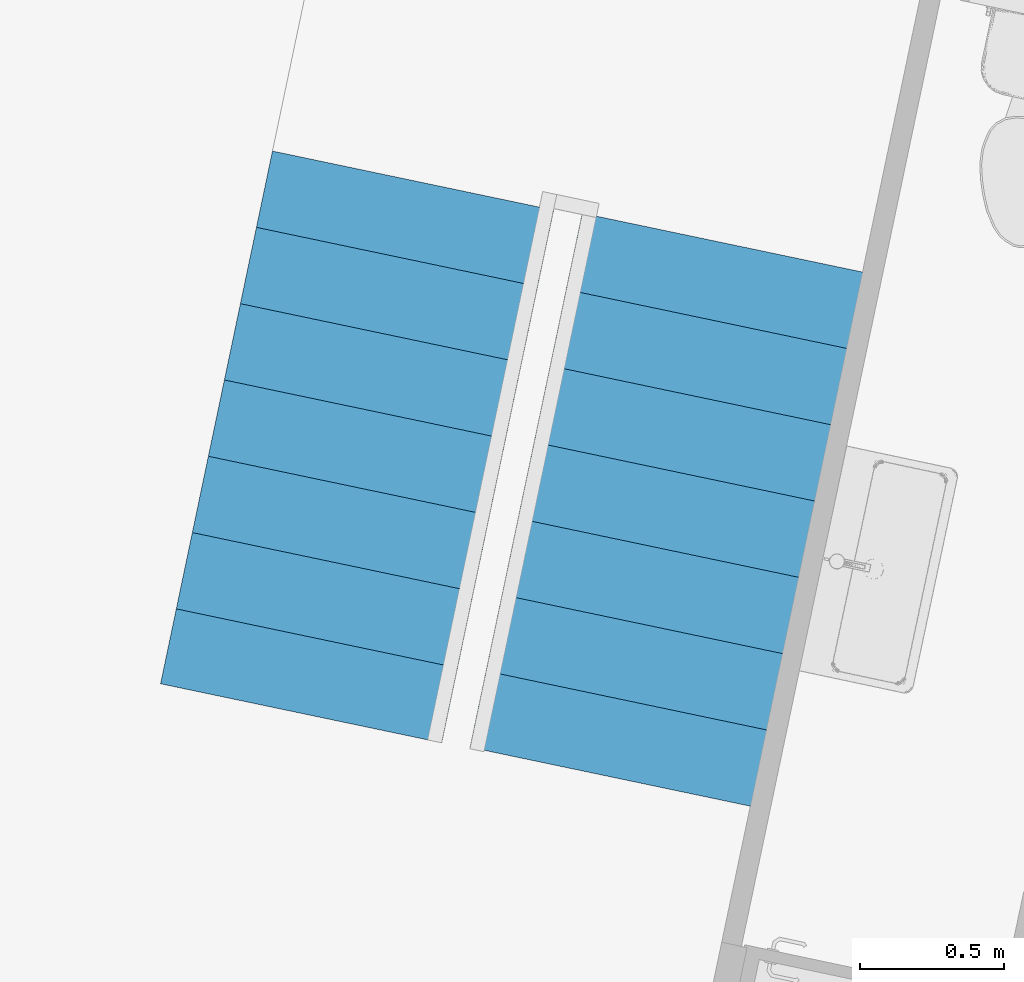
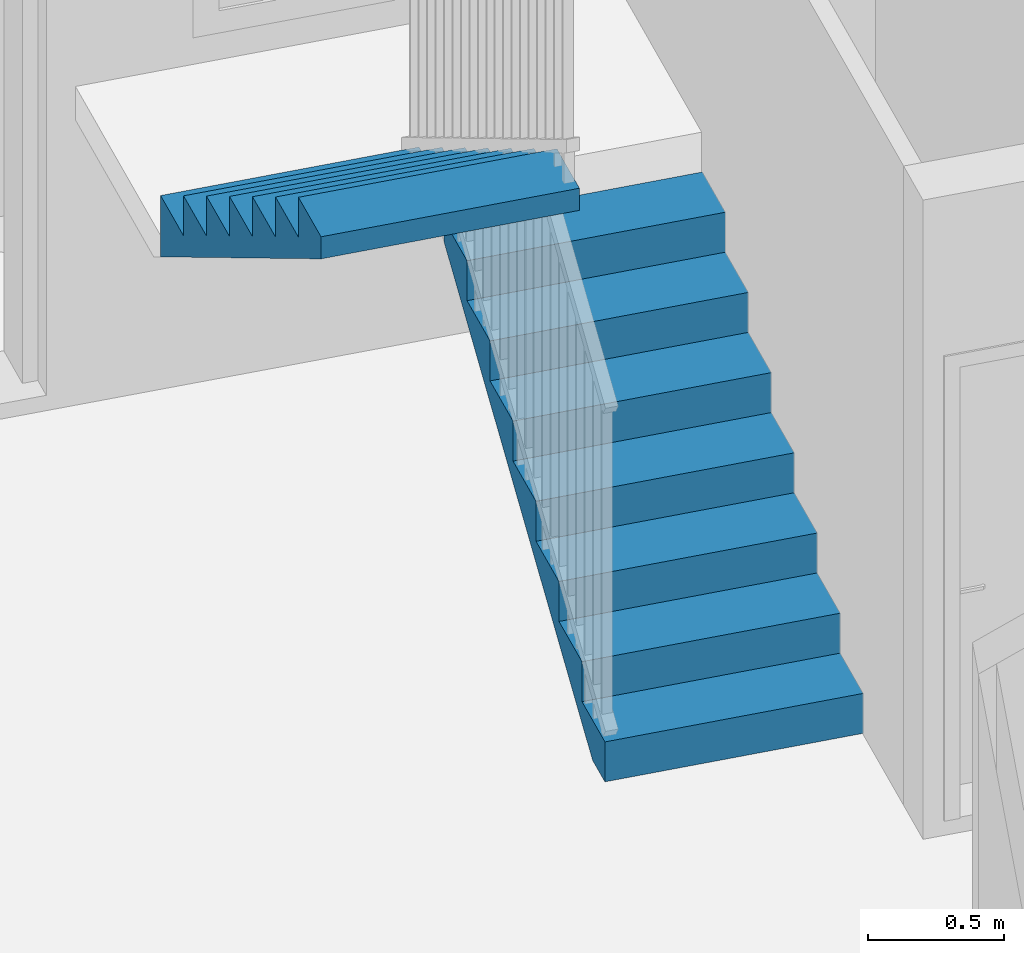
# One storey, part 14 of 20: 2 stair flights, 1 element without a shape of its own.
"""IFC2X3 building model written with IfcOpenShell, lengths in metres."""

from ifc_helpers import new_model, entity, si_unit, converted_unit, derived_unit, direction, frame, origin, place, context, subcontext, project, spatial, faceted_brep, element, aggregate, save


model = new_model("IFC2X3")

# Units and contexts
model_context = context("Model", 3, precision=1e-05, world=origin(), true_north=direction((6.12303176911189e-17, 1.0)))
body_context = subcontext(model_context, "Body", "Model", "MODEL_VIEW")
ifc_project = project(units=[si_unit("LENGTHUNIT", "METRE"), si_unit("AREAUNIT", "SQUARE_METRE"), si_unit("VOLUMEUNIT", "CUBIC_METRE"), converted_unit("PLANEANGLEUNIT", "DEGREE", entity("IfcRatioMeasure", 0.0174532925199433), si_unit("PLANEANGLEUNIT", "RADIAN"), dimensions=[0, 0, 0, 0, 0, 0, 0]), si_unit("MASSUNIT", "GRAM", prefix="KILO"), derived_unit("MASSDENSITYUNIT", [(si_unit("MASSUNIT", "GRAM", prefix="KILO"), 1), (si_unit("LENGTHUNIT", "METRE"), -3)]), si_unit("TIMEUNIT", "SECOND"), si_unit("FREQUENCYUNIT", "HERTZ"), si_unit("THERMODYNAMICTEMPERATUREUNIT", "DEGREE_CELSIUS"), derived_unit("THERMALTRANSMITTANCEUNIT", [(si_unit("MASSUNIT", "GRAM", prefix="KILO"), 1), (si_unit("THERMODYNAMICTEMPERATUREUNIT", "KELVIN"), -1), (si_unit("TIMEUNIT", "SECOND"), -3)]), derived_unit("VOLUMETRICFLOWRATEUNIT", [(si_unit("LENGTHUNIT", "METRE"), 3), (si_unit("TIMEUNIT", "SECOND"), -1)]), si_unit("ELECTRICCURRENTUNIT", "AMPERE"), si_unit("ELECTRICVOLTAGEUNIT", "VOLT"), si_unit("POWERUNIT", "WATT"), si_unit("FORCEUNIT", "NEWTON", prefix="KILO"), si_unit("ILLUMINANCEUNIT", "LUX"), si_unit("LUMINOUSFLUXUNIT", "LUMEN"), si_unit("LUMINOUSINTENSITYUNIT", "CANDELA"), derived_unit("USERDEFINED", [(si_unit("MASSUNIT", "GRAM", prefix="KILO"), -1), (si_unit("LENGTHUNIT", "METRE"), -2), (si_unit("TIMEUNIT", "SECOND"), 3), (si_unit("LUMINOUSFLUXUNIT", "LUMEN"), 1)]), derived_unit("LINEARVELOCITYUNIT", [(si_unit("LENGTHUNIT", "METRE"), 1), (si_unit("TIMEUNIT", "SECOND"), -1)]), si_unit("PRESSUREUNIT", "PASCAL"), derived_unit("USERDEFINED", [(si_unit("LENGTHUNIT", "METRE"), -2), (si_unit("MASSUNIT", "GRAM", prefix="KILO"), 1), (si_unit("TIMEUNIT", "SECOND"), -2)])], contexts=[model_context])

# Site, building, storey
site_placement = place(None, origin())
site = spatial("IfcSite", under=ifc_project, at=site_placement, Name="Default", CompositionType="ELEMENT")
building_placement = place(site_placement, origin())
building = spatial("IfcBuilding", under=site, at=building_placement, CompositionType="ELEMENT")
storey_placement = place(building_placement, frame((0.0, 0.0, -0.0686871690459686)))
storey = spatial("IfcBuildingStorey", under=building, at=storey_placement, Name="RDC", CompositionType="ELEMENT", Elevation=-0.0686871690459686)

# Stair, stair flights
stair_placement = place(storey_placement, origin())
stair = element("IfcStair", 1, at=stair_placement, inside=storey, Name="Escalier coulé sur place:Escalier", ObjectType="Escalier coulé sur place:Monobloc", ShapeType="NOTDEFINED")
stair_flight_1_placement = place(stair_placement, frame((-13.2135052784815, 82.3871692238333, 0.0)))
stair_flight_1 = element("IfcStairFlight", 2, at=stair_flight_1_placement, Name="Escalier coulé sur place:Escalier:1893858 Run 1", ObjectType="Volée monobloc:Nez de marche 5 mm", NumberOfRiser=8, NumberOfTreads=7, RiserHeight=0.588231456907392, TreadLength=0.890466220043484, context=body_context, shape_type="Brep", body=[
    faceted_brep([(0.0557908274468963, 0.471174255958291, 0.179292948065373), (0.0, 0.205556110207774, 0.179292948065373), (0.978645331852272, 0.0, 0.179292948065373), (1.03443615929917, 0.265618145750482, 0.179292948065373), (0.0557908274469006, 0.471174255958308, 0.0834137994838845), (0.0298348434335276, 0.347598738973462, 0.0), (0.0, 0.205556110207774, 0.0), (0.978645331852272, 0.0, 0.0), (1.00848017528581, 0.142042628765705, 0.0), (1.03443615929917, 0.2656181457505, 0.0834137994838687), (0.111581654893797, 0.736792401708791, 0.358585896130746), (0.0557908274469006, 0.471174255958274, 0.358585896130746), (1.03443615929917, 0.265618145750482, 0.358585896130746), (1.09022698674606, 0.531236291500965, 0.358585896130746), (0.111581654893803, 0.736792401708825, 0.262706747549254), (1.09022698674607, 0.531236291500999, 0.262706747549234), (0.167372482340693, 1.00241054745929, 0.537878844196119), (0.111581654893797, 0.736792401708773, 0.537878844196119), (1.09022698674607, 0.531236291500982, 0.537878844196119), (1.14601781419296, 0.796854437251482, 0.537878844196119), (0.1673724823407, 1.00241054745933, 0.441999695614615), (1.14601781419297, 0.796854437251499, 0.441999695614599), (0.223163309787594, 1.26802869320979, 0.717171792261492), (0.167372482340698, 1.00241054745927, 0.717171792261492), (1.14601781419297, 0.796854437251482, 0.717171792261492), (1.20180864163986, 1.06247258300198, 0.717171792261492), (0.2231633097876, 1.26802869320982, 0.621292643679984), (1.20180864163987, 1.062472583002, 0.621292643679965), (0.27895413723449, 1.53364683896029, 0.896464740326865), (0.223163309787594, 1.26802869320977, 0.896464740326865), (1.20180864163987, 1.06247258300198, 0.896464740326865), (1.25759946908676, 1.32809072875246, 0.896464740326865), (0.278954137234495, 1.53364683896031, 0.800585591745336), (1.25759946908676, 1.3280907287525, 0.800585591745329), (0.334744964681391, 1.79926498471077, 1.07575768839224), (0.278954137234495, 1.53364683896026, 1.07575768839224), (1.25759946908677, 1.32809072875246, 1.07575768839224), (1.31339029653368, 1.59370887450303, 1.07575768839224), (0.334744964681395, 1.79926498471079, 0.979878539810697), (1.31339029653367, 1.59370887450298, 0.979878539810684), (0.390535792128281, 2.06488313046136, 1.25505063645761), (0.334744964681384, 1.79926498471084, 1.25505063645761), (1.31339029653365, 1.59370887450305, 1.25505063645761), (1.36815334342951, 1.85443379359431, 1.25505063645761), (1.36918112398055, 1.85932702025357, 1.25505063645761), (0.390535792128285, 2.06488313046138, 1.15917148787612), (1.36815334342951, 1.85443379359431, 1.15586854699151), (1.36918112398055, 1.85932702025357, 1.15917148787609)], [[[0, 1, 2, 3]], [[1, 0, 4, 5, 6]], [[2, 1, 6, 7]], [[3, 2, 7, 8, 9]], [[10, 11, 12, 13]], [[11, 10, 14, 4, 0]], [[0, 3, 12, 11]], [[13, 12, 3, 9, 15]], [[16, 17, 18, 19]], [[17, 16, 20, 14, 10]], [[10, 13, 18, 17]], [[19, 18, 13, 15, 21]], [[22, 23, 24, 25]], [[23, 22, 26, 20, 16]], [[16, 19, 24, 23]], [[25, 24, 19, 21, 27]], [[28, 29, 30, 31]], [[29, 28, 32, 26, 22]], [[22, 25, 30, 29]], [[31, 30, 25, 27, 33]], [[34, 35, 36, 37]], [[35, 34, 38, 32, 28]], [[28, 31, 36, 35]], [[37, 36, 31, 33, 39]], [[40, 41, 42, 43, 44]], [[41, 40, 45, 38, 34]], [[34, 37, 42, 41]], [[43, 42, 37, 39, 46]], [[40, 44, 47, 45]], [[7, 6, 5, 8]], [[8, 5, 4, 14, 20, 26, 32, 38, 45, 47, 46, 39, 33, 27, 21, 15, 9]], [[44, 43, 46, 47]]]),
])
stair_flight_2_placement = place(stair_placement, frame((-14.2910429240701, 82.6083877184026, 0.0)))
stair_flight_2 = element("IfcStairFlight", 3, at=stair_flight_2_placement, Name="Escalier coulé sur place:Escalier:1893858 Run 2", ObjectType="Volée monobloc:Nez de marche 5 mm", NumberOfRiser=8, NumberOfTreads=7, RiserHeight=0.588231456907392, TreadLength=0.890466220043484, context=body_context, shape_type="Brep", body=[
    faceted_brep([(1.31236251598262, 1.58881564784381, 1.61363653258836), (1.36815334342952, 1.85443379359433, 1.61363653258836), (0.389508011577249, 2.05998990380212, 1.61363653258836), (0.333717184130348, 1.79437175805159, 1.61363653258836), (1.31236251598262, 1.58881564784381, 1.51775738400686), (1.36815334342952, 1.85443379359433, 1.33846443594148), (1.36815334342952, 1.85443379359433, 1.43434358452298), (0.389508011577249, 2.05998990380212, 1.33846443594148), (0.389508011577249, 2.05998990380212, 1.43434358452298), (0.33371718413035, 1.79437175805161, 1.51775738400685), (1.25657168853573, 1.3231975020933, 1.79292948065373), (1.31236251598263, 1.58881564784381, 1.79292948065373), (0.333717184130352, 1.79437175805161, 1.79292948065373), (0.27792635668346, 1.52875361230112, 1.79292948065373), (1.25657168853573, 1.32319750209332, 1.69705033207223), (0.277926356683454, 1.52875361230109, 1.69705033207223), (1.20078086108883, 1.05757935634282, 1.9722224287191), (1.25657168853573, 1.32319750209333, 1.9722224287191), (0.277926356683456, 1.52875361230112, 1.9722224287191), (0.222135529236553, 1.26313546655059, 1.9722224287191), (1.20078086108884, 1.05757935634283, 1.87634328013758), (0.222135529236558, 1.26313546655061, 1.87634328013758), (1.14499003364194, 0.791961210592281, 2.15151537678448), (1.20078086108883, 1.0575793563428, 2.15151537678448), (0.22213552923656, 1.26313546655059, 2.15151537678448), (0.166344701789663, 0.997517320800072, 2.15151537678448), (1.14499003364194, 0.791961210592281, 2.05563622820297), (0.166344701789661, 0.997517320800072, 2.05563622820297), (1.08919920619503, 0.526343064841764, 2.33080832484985), (1.14499003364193, 0.791961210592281, 2.33080832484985), (0.166344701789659, 0.997517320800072, 2.33080832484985), (0.110553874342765, 0.731899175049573, 2.33080832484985), (1.08919920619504, 0.526343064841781, 2.23492917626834), (0.110553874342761, 0.731899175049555, 2.23492917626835), (1.03340837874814, 0.260724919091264, 2.51010127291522), (1.08919920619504, 0.526343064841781, 2.51010127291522), (0.110553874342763, 0.731899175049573, 2.51010127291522), (0.0547630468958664, 0.466281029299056, 2.51010127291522), (1.03340837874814, 0.260724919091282, 2.4142221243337), (0.0547630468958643, 0.466281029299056, 2.41422212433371), (0.978645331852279, 0.0, 2.6893942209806), (1.03340837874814, 0.260724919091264, 2.6893942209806), (0.0547630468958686, 0.466281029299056, 2.6893942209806), (0.0, 0.205556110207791, 2.6893942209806), (0.978645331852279, 0.0, 2.5902121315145), (0.0, 0.205556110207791, 2.59021213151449)], [[[0, 1, 2, 3]], [[1, 0, 4, 5, 6]], [[2, 1, 6, 5, 7, 8]], [[3, 2, 8, 7, 9]], [[10, 11, 12, 13]], [[11, 10, 14, 4, 0]], [[12, 11, 0, 3]], [[13, 12, 3, 9, 15]], [[16, 17, 18, 19]], [[17, 16, 20, 14, 10]], [[18, 17, 10, 13]], [[19, 18, 13, 15, 21]], [[22, 23, 24, 25]], [[23, 22, 26, 20, 16]], [[24, 23, 16, 19]], [[25, 24, 19, 21, 27]], [[28, 29, 30, 31]], [[29, 28, 32, 26, 22]], [[30, 29, 22, 25]], [[31, 30, 25, 27, 33]], [[34, 35, 36, 37]], [[35, 34, 38, 32, 28]], [[36, 35, 28, 31]], [[37, 36, 31, 33, 39]], [[40, 41, 42, 43]], [[41, 40, 44, 38, 34]], [[42, 41, 34, 37]], [[43, 42, 37, 39, 45]], [[40, 43, 45, 44]], [[5, 4, 14, 20, 26, 32, 38, 44, 45, 39, 33, 27, 21, 15, 9, 7]]]),
])
aggregate(stair, [stair_flight_1, stair_flight_2])

save(model, "model.ifc")
